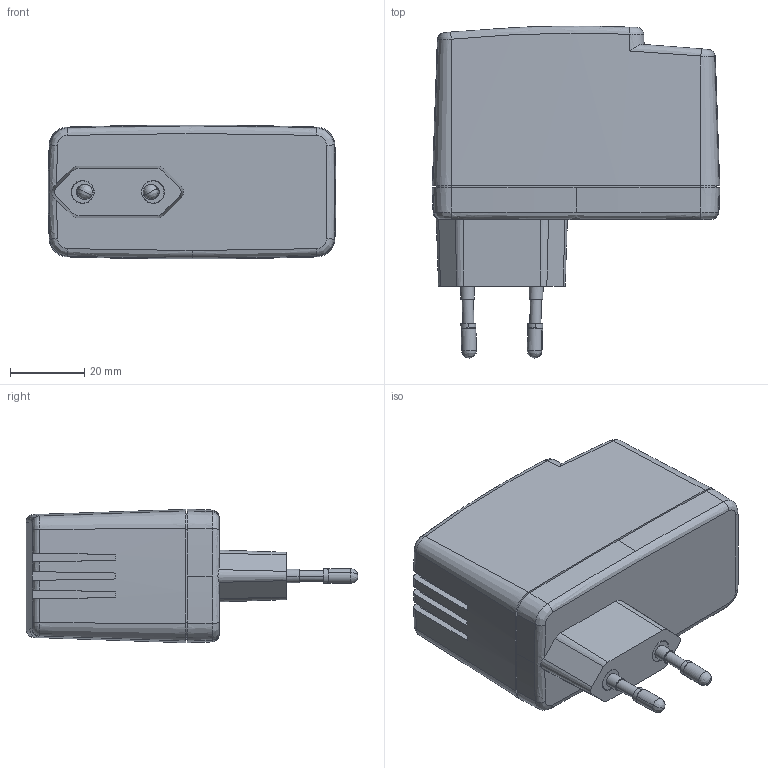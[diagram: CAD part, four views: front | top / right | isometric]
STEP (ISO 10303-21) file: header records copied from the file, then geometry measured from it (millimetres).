
FILE_DESCRIPTION (( 'STEP AP203' ), '1' );
FILE_NAME ('AD-060.STEP', '2023-01-09T11:15:36', ( '' ), ( '' ), 'SwSTEP 2.0', 'SolidWorks 2021', '' );
FILE_SCHEMA (( 'CONFIG_CONTROL_DESIGN' ));
Length unit declared in the file: millimetre
Products named in the file (6): plastik_parca; AD-060-P-1-_1; AD-060; AD-060-P-1_1; pin; priz_montaj
Assembly tree (6 placements, depth 3):
  AD-060
    AD-060-P-1_1
    AD-060-P-1-_1
    priz_montaj
      plastik_parca
      pin  x2
Bounding box: 77.48 x 89.44 x 36 mm (x, y, z)
Volume: 31658.9 mm3; surface area: 37536.2 mm2
Topology: 5 solids, 5 shells, 359 faces, 997 edges, 641 vertices
Faces by surface type: plane 167, cone 76, bspline 63, cylinder 53
Entity records: 12927 total; most frequent: CARTESIAN_POINT 4144, ORIENTED_EDGE 1904, DIRECTION 1495, EDGE_CURVE 952, VERTEX_POINT 617, AXIS2_PLACEMENT_3D 529, LINE 437, VECTOR 437
